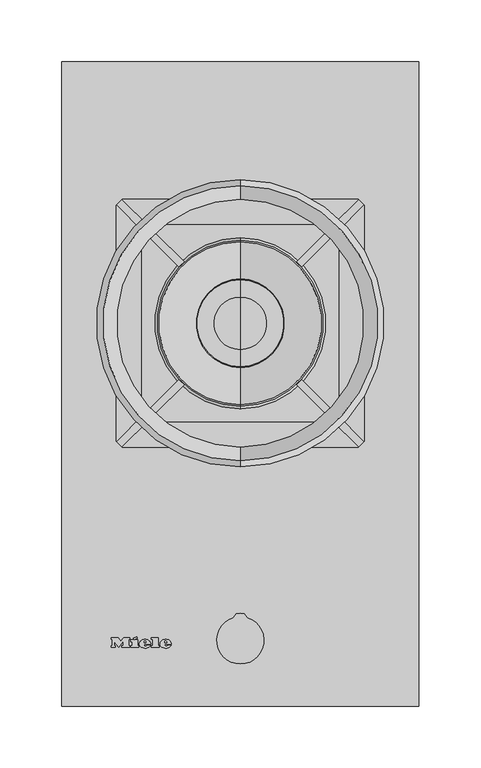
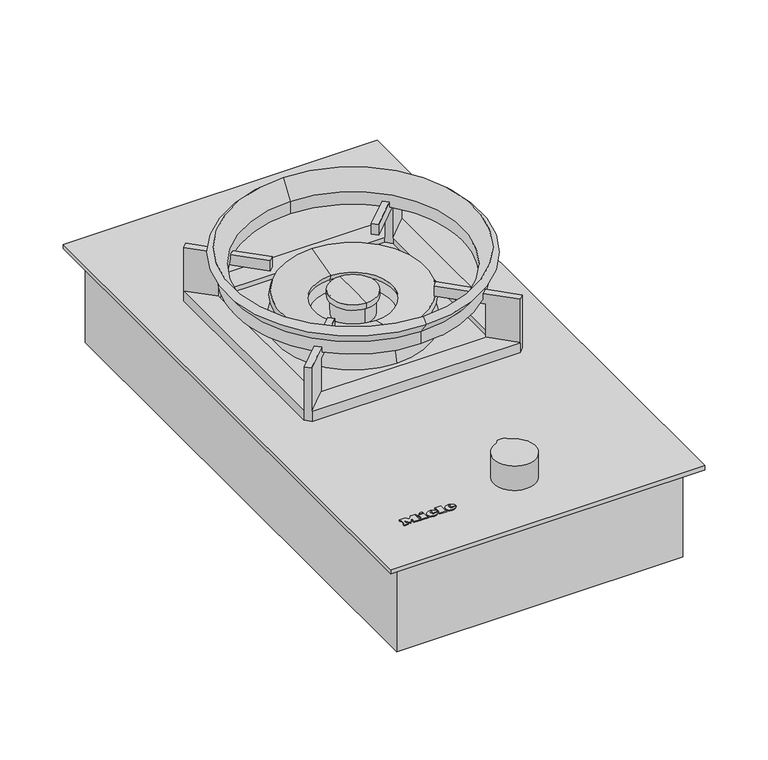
"""IFC4 building model written with IfcOpenShell, lengths in millimetres: proxy geometry, 12106150_HK_CS7151FL : 27715150_HK_12106150_CS7151FL."""

from ifc_helpers import new_model, si_unit, point, frame, frame_2d, origin, origin_with_axes, place, context, project, spatial, polyline, circle_curve, ellipse_curve, trimmed, segment, composite_curve, outline, extrude, source, transform, mapped, element, save
from ifc_brep_helpers import plane_surface, cylinder_surface, revolved_surface, extruded_surface, advanced_brep


def specialty_equipment_dbccff51(model_context):
    return source(origin(), model_context, "Body", "SolidModel", [
        advanced_brep(
        [(-60.94, 49.1959995, 4.9919765), (-60.94, 50.0039992, 4.9925904), (-55.588, 50.0039992, 4.9925904), (-64.9, 50.0039992, 4.9925904), (-62.7, 47.3, 4.990536), (-55.724, 49.1959995, 4.9919765), (-58.14, 49.1959995, 4.9919765), (-60.044, 48.2999997, 4.9912958), (-60.94, 51.0279989, 4.9933684), (-60.94, 51.8999987, 4.9940309), (-59.572, 51.8999987, 4.9940309), (-59.572, 51.0279989, 4.9933684), (-60.94, 49.1967592, 3.9919768), (-60.044, 48.3007595, 3.9912961), (-58.14, 49.1967592, 3.9919768), (-55.724, 49.1967592, 3.9919768), (-62.7, 47.3007598, 3.9905363), (-64.9, 50.004759, 3.9925907), (-55.588, 50.004759, 3.9925907), (-60.94, 50.004759, 3.9925907), (-60.94, 51.0287587, 3.9933687), (-59.572, 51.0287587, 3.9933687), (-59.572, 51.9007584, 3.9940312), (-60.94, 51.9007584, 3.9940312)],
        [
            (0, 1),
            (1, 2),
            (2, 3, ellipse_curve(frame((-60.244, 50.0039992, 4.9925904), z_axis=(0.0, -0.0007597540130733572, 0.9999997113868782), x_axis=(-1.0, 0.0, 0.0)), 4.656, 3.848)),
            (3, 4, circle_curve(frame((-61.8039564, 50.2759991, 4.9927971), z_axis=(0.0, -0.0007597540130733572, 0.9999997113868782), x_axis=(0.0, -0.9999997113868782, -0.0007597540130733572)), 3.1079688)),
            (4, 5, circle_curve(frame((-60.3372064, 52.3879985, 4.9944017), z_axis=(0.0, -0.0007597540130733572, 0.9999997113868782), x_axis=(0.0, -0.9999997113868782, -0.0007597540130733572)), 5.6098607)),
            (5, 6),
            (6, 7, circle_curve(frame((-59.6529412, 49.9399992, 4.9925418), z_axis=(0.0, 0.0007597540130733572, -0.9999997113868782), x_axis=(0.0, -0.9999997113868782, -0.0007597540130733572)), 1.6859795)),
            (7, 0, circle_curve(frame((-60.044, 49.1959995, 4.9919765), z_axis=(0.0, 0.0007597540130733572, -0.9999997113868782), x_axis=(0.0, -0.9999997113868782, -0.0007597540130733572)), 0.896)),
            (8, 9),
            (9, 10, circle_curve(frame((-60.256, 51.8999987, 4.9940309), z_axis=(0.0, 0.0007597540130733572, -0.9999997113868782), x_axis=(0.0, -0.9999997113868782, -0.0007597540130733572)), 0.684)),
            (10, 11),
            (11, 8),
            (12, 13, circle_curve(frame((-60.044, 49.1967592, 3.9919768), z_axis=(0.0, -0.0007597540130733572, 0.9999997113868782), x_axis=(0.0, -0.9999997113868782, -0.0007597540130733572)), 0.896)),
            (13, 14, circle_curve(frame((-59.6529412, 49.940759, 3.9925421), z_axis=(0.0, -0.0007597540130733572, 0.9999997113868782), x_axis=(0.0, -0.9999997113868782, -0.0007597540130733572)), 1.6859795)),
            (14, 15),
            (15, 16, circle_curve(frame((-60.3372064, 52.3887583, 3.994402), z_axis=(0.0, 0.0007597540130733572, -0.9999997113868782), x_axis=(0.0, -0.9999997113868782, -0.0007597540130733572)), 5.6098607)),
            (16, 17, circle_curve(frame((-61.8039564, 50.2767589, 3.9927974), z_axis=(0.0, 0.0007597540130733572, -0.9999997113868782), x_axis=(0.0, -0.9999997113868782, -0.0007597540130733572)), 3.1079688)),
            (17, 18, ellipse_curve(frame((-60.244, 50.004759, 3.9925907), z_axis=(0.0, 0.0007597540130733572, -0.9999997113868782), x_axis=(-1.0, 0.0, 0.0)), 4.656, 3.848)),
            (18, 19),
            (19, 12),
            (20, 21),
            (21, 22),
            (22, 23, circle_curve(frame((-60.256, 51.9007584, 3.9940312), z_axis=(0.0, -0.0007597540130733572, 0.9999997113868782), x_axis=(0.0, -0.9999997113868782, -0.0007597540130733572)), 0.684)),
            (23, 20),
            (0, 12),
            (19, 1),
            (18, 2),
            (5, 15),
            (14, 6),
            (17, 3),
            (13, 7),
            (16, 4),
            (8, 20),
            (23, 9),
            (22, 10),
            (21, 11),
        ],
        [
            plane_surface(frame((-60.94, 50.0039992, 4.9925904), z_axis=(0.0, -0.0007597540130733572, 0.9999997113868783), x_axis=(0.0, 0.9999997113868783, 0.0007597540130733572))),
            plane_surface(frame((-60.94, 50.004759, 3.9925907), z_axis=(0.0, 0.0007597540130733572, -0.9999997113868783), x_axis=(0.0, -0.9999997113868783, -0.0007597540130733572))),
            plane_surface(frame((-60.94, 49.1959995, 4.9919765), z_axis=(1.0, 0.0, 0.0), x_axis=(0.0, 0.0007597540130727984, -0.9999997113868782))),
            plane_surface(frame((-60.94, 50.0039992, 4.9925904), z_axis=(0.0, -0.9999997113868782, -0.0007597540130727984), x_axis=(0.0, 0.0007597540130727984, -0.9999997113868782))),
            plane_surface(frame((-55.724, 49.1959995, 4.9919765), z_axis=(0.0, 0.9999997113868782, 0.0007597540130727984), x_axis=(0.0, 0.0007597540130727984, -0.9999997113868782))),
            extruded_surface(trimmed(ellipse_curve(frame((-60.244, 50.0055187, 2.992591), z_axis=(0.0, -0.0007597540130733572, 0.9999997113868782), x_axis=(-1.0, 0.0, 0.0)), 4.656, 3.848), [point((-55.588, 50.0055187, 2.992591))], [point((-64.9, 50.0055187, 2.992591))], True, "CARTESIAN"), (0.0, -0.0007597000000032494, 0.9999997), 0.9999999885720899),
            revolved_surface(polyline([(-59.6529412, 48.25477998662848, 3.9912611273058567), (-59.6529412, 48.25402023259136, 4.991260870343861)]), (-59.6529412, 49.940759, 3.9925421), (0.0, 0.0007597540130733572, -0.9999997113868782)),
            revolved_surface(polyline([(-60.044, 48.30075945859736, 3.9912960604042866), (-60.044, 48.29999970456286, 4.991295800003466)]), (-60.044, 49.1967592, 3.9919768), (0.0, 0.0007597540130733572, -0.9999997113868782)),
            cylinder_surface(frame((-61.8039564, 50.2767589, 3.9927974), z_axis=(0.0, -0.0007597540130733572, 0.9999997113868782), x_axis=(0.0, -0.9999997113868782, -0.0007597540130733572)), 3.1079688),
            cylinder_surface(frame((-60.3372064, 52.3887583, 3.994402), z_axis=(0.0, -0.0007597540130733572, 0.9999997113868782), x_axis=(0.0, -0.9999997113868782, -0.0007597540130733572)), 5.6098607),
            plane_surface(frame((-60.94, 51.0279989, 4.9933684), z_axis=(1.0, 0.0, 0.0), x_axis=(0.0, 0.0007597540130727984, -0.9999997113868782))),
            revolved_surface(polyline([(-60.256, 51.21675859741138, 3.9935115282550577), (-60.256, 51.215998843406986, 4.993511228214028)]), (-60.256, 51.9007584, 3.9940312), (0.0, 0.0007597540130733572, -0.9999997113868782)),
            plane_surface(frame((-59.572, 51.8999987, 4.9940309), z_axis=(-1.0, 0.0, 0.0), x_axis=(0.0, 0.0007597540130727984, -0.9999997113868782))),
            plane_surface(frame((-59.572, 51.0279989, 4.9933684), z_axis=(0.0, 0.9999997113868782, 0.0007597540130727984), x_axis=(0.0, 0.0007597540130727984, -0.9999997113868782))),
        ],
        [
            (0, [[1, 2, 3, 4, 5, 6, 7, 8], [9, 10, 11, 12]]),
            (1, [[13, 14, 15, 16, 17, 18, 19, 20], [21, 22, 23, 24]]),
            (2, [[-1, 25, -20, 26]]),
            (3, [[-2, -26, -19, 27]]),
            (4, [[-6, 28, -15, 29]]),
            (5, [[-3, -27, -18, 30]]),
            (6, [[-7, -29, -14, 31]]),
            (7, [[-8, -31, -13, -25]]),
            (8, [[-4, -30, -17, 32]]),
            (9, [[-5, -32, -16, -28]]),
            (10, [[-9, 33, -24, 34]]),
            (11, [[-10, -34, -23, 35]]),
            (12, [[-11, -35, -22, 36]]),
            (13, [[-12, -36, -21, -33]]),
        ],
    ),
        advanced_brep(
        [(-77.636, 49.1959995, 4.9919765), (-77.636, 50.0039992, 4.9925904), (-72.284, 50.0039992, 4.9925904), (-81.596, 50.0039992, 4.9925904), (-79.396, 47.3, 4.990536), (-72.42, 49.1959995, 4.9919765), (-74.836, 49.1959995, 4.9919765), (-76.74, 48.2999997, 4.9912958), (-77.636, 51.0279989, 4.9933684), (-77.636, 51.8999987, 4.9940309), (-76.268, 51.8999987, 4.9940309), (-76.268, 51.0279989, 4.9933684), (-77.636, 49.1967592, 3.9919768), (-76.74, 48.3007595, 3.9912961), (-74.836, 49.1967592, 3.9919768), (-72.42, 49.1967592, 3.9919768), (-79.396, 47.3007598, 3.9905363), (-81.596, 50.004759, 3.9925907), (-72.284, 50.004759, 3.9925907), (-77.636, 50.004759, 3.9925907), (-77.636, 51.0287587, 3.9933687), (-76.268, 51.0287587, 3.9933687), (-76.268, 51.9007584, 3.9940312), (-77.636, 51.9007584, 3.9940312)],
        [
            (0, 1),
            (1, 2),
            (2, 3, ellipse_curve(frame((-76.94, 50.0039992, 4.9925904), z_axis=(0.0, -0.0007597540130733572, 0.9999997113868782), x_axis=(-1.0, 0.0, 0.0)), 4.656, 3.848)),
            (3, 4, circle_curve(frame((-78.4999564, 50.2759991, 4.9927971), z_axis=(0.0, -0.0007597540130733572, 0.9999997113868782), x_axis=(0.0, -0.9999997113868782, -0.0007597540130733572)), 3.1079688)),
            (4, 5, circle_curve(frame((-77.0332064, 52.3879985, 4.9944017), z_axis=(0.0, -0.0007597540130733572, 0.9999997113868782), x_axis=(0.0, -0.9999997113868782, -0.0007597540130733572)), 5.6098607)),
            (5, 6),
            (6, 7, circle_curve(frame((-76.3489412, 49.9399992, 4.9925418), z_axis=(0.0, 0.0007597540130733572, -0.9999997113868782), x_axis=(0.0, -0.9999997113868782, -0.0007597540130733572)), 1.6859795)),
            (7, 0, circle_curve(frame((-76.74, 49.1959995, 4.9919765), z_axis=(0.0, 0.0007597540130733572, -0.9999997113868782), x_axis=(0.0, -0.9999997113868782, -0.0007597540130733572)), 0.896)),
            (8, 9),
            (9, 10, circle_curve(frame((-76.952, 51.8999987, 4.9940309), z_axis=(0.0, 0.0007597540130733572, -0.9999997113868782), x_axis=(0.0, -0.9999997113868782, -0.0007597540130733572)), 0.684)),
            (10, 11),
            (11, 8),
            (12, 13, circle_curve(frame((-76.74, 49.1967592, 3.9919768), z_axis=(0.0, -0.0007597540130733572, 0.9999997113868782), x_axis=(0.0, -0.9999997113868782, -0.0007597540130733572)), 0.896)),
            (13, 14, circle_curve(frame((-76.3489412, 49.940759, 3.9925421), z_axis=(0.0, -0.0007597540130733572, 0.9999997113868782), x_axis=(0.0, -0.9999997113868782, -0.0007597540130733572)), 1.6859795)),
            (14, 15),
            (15, 16, circle_curve(frame((-77.0332064, 52.3887583, 3.994402), z_axis=(0.0, 0.0007597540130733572, -0.9999997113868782), x_axis=(0.0, -0.9999997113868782, -0.0007597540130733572)), 5.6098607)),
            (16, 17, circle_curve(frame((-78.4999564, 50.2767589, 3.9927974), z_axis=(0.0, 0.0007597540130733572, -0.9999997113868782), x_axis=(0.0, -0.9999997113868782, -0.0007597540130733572)), 3.1079688)),
            (17, 18, ellipse_curve(frame((-76.94, 50.004759, 3.9925907), z_axis=(0.0, 0.0007597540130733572, -0.9999997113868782), x_axis=(-1.0, 0.0, 0.0)), 4.656, 3.848)),
            (18, 19),
            (19, 12),
            (20, 21),
            (21, 22),
            (22, 23, circle_curve(frame((-76.952, 51.9007584, 3.9940312), z_axis=(0.0, -0.0007597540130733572, 0.9999997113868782), x_axis=(0.0, -0.9999997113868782, -0.0007597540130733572)), 0.684)),
            (23, 20),
            (0, 12),
            (19, 1),
            (18, 2),
            (5, 15),
            (14, 6),
            (17, 3),
            (13, 7),
            (16, 4),
            (8, 20),
            (23, 9),
            (22, 10),
            (21, 11),
        ],
        [
            plane_surface(frame((-77.636, 50.0039992, 4.9925904), z_axis=(0.0, -0.0007597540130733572, 0.9999997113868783), x_axis=(0.0, 0.9999997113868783, 0.0007597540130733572))),
            plane_surface(frame((-77.636, 50.004759, 3.9925907), z_axis=(0.0, 0.0007597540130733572, -0.9999997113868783), x_axis=(0.0, -0.9999997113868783, -0.0007597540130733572))),
            plane_surface(frame((-77.636, 49.1959995, 4.9919765), z_axis=(1.0, 0.0, 0.0), x_axis=(0.0, 0.0007597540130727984, -0.9999997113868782))),
            plane_surface(frame((-77.636, 50.0039992, 4.9925904), z_axis=(0.0, -0.9999997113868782, -0.0007597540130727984), x_axis=(0.0, 0.0007597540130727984, -0.9999997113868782))),
            plane_surface(frame((-72.42, 49.1959995, 4.9919765), z_axis=(0.0, 0.9999997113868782, 0.0007597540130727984), x_axis=(0.0, 0.0007597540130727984, -0.9999997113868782))),
            extruded_surface(trimmed(ellipse_curve(frame((-76.94, 50.0055187, 2.992591), z_axis=(0.0, -0.0007597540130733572, 0.9999997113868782), x_axis=(-1.0, 0.0, 0.0)), 4.656, 3.848), [point((-72.284, 50.0055187, 2.992591))], [point((-81.596, 50.0055187, 2.992591))], True, "CARTESIAN"), (0.0, -0.0007597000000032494, 0.9999997), 0.9999999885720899),
            revolved_surface(polyline([(-76.3489412, 48.25477998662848, 3.9912611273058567), (-76.3489412, 48.25402023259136, 4.991260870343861)]), (-76.3489412, 49.940759, 3.9925421), (0.0, 0.0007597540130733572, -0.9999997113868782)),
            revolved_surface(polyline([(-76.74, 48.30075945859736, 3.9912960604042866), (-76.74, 48.29999970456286, 4.991295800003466)]), (-76.74, 49.1967592, 3.9919768), (0.0, 0.0007597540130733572, -0.9999997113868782)),
            cylinder_surface(frame((-78.4999564, 50.2767589, 3.9927974), z_axis=(0.0, -0.0007597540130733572, 0.9999997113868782), x_axis=(0.0, -0.9999997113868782, -0.0007597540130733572)), 3.1079688),
            cylinder_surface(frame((-77.0332064, 52.3887583, 3.994402), z_axis=(0.0, -0.0007597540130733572, 0.9999997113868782), x_axis=(0.0, -0.9999997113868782, -0.0007597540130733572)), 5.6098607),
            plane_surface(frame((-77.636, 51.0279989, 4.9933684), z_axis=(1.0, 0.0, 0.0), x_axis=(0.0, 0.0007597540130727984, -0.9999997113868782))),
            revolved_surface(polyline([(-76.952, 51.21675859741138, 3.9935115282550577), (-76.952, 51.215998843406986, 4.993511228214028)]), (-76.952, 51.9007584, 3.9940312), (0.0, 0.0007597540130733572, -0.9999997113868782)),
            plane_surface(frame((-76.268, 51.8999987, 4.9940309), z_axis=(-1.0, 0.0, 0.0), x_axis=(0.0, 0.0007597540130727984, -0.9999997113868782))),
            plane_surface(frame((-76.268, 51.0279989, 4.9933684), z_axis=(0.0, 0.9999997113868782, 0.0007597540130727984), x_axis=(0.0, 0.0007597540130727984, -0.9999997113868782))),
        ],
        [
            (0, [[1, 2, 3, 4, 5, 6, 7, 8], [9, 10, 11, 12]]),
            (1, [[13, 14, 15, 16, 17, 18, 19, 20], [21, 22, 23, 24]]),
            (2, [[-1, 25, -20, 26]]),
            (3, [[-2, -26, -19, 27]]),
            (4, [[-6, 28, -15, 29]]),
            (5, [[-3, -27, -18, 30]]),
            (6, [[-7, -29, -14, 31]]),
            (7, [[-8, -31, -13, -25]]),
            (8, [[-4, -30, -17, 32]]),
            (9, [[-5, -32, -16, -28]]),
            (10, [[-9, 33, -24, 34]]),
            (11, [[-10, -34, -23, 35]]),
            (12, [[-11, -35, -22, 36]]),
            (13, [[-12, -36, -21, -33]]),
        ],
    ),
        extrude(outline(polyline([(0.0, 0.0), (-0.0109086, -2.9993294), (-1.4390415, -2.9920868), (-1.4315306, 0.0), (0.0, 0.0)])), frame((-86.38, 54.8287576, 3.9962558), z_axis=(0.0, -0.0007597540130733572, 0.9999997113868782), x_axis=(-0.42472021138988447, 0.9053243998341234, 0.0006878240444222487)), (0.0, 0.0, 1.0), 1.0),
        extrude(outline(polyline([(-0.4933908, 2.4141097), (-2.7800844, -2.4601583), (-7.0459742, -0.4588767), (-7.4401145, -1.2990179), (-8.6568709, -0.728194), (-5.9760369, 4.9862153), (-4.7592806, 4.4153913), (-5.1636142, 3.5535222), (-2.1941494, 2.16044), (-1.7898157, 3.022309), (-0.4933908, 2.4141097)])), frame((-86.38, 54.8287576, 3.9962558), z_axis=(0.0, -0.0007597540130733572, 0.9999997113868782), x_axis=(-0.42472021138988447, 0.9053243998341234, 0.0006878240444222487)), (0.0, 0.0, 1.0), 1.0),
        extrude(outline(polyline([(0.0, 0.0), (0.0, -1.304), (-5.504, -1.304), (-5.504, 5.3519999), (-6.488, 5.3519999), (-6.488, 6.6959999), (0.0, 6.6959999), (0.0, 5.3519999), (-0.96, 5.3519999), (-0.96, 0.0), (0.0, 0.0)])), frame((-71.836, 53.9967578, 3.9956236), z_axis=(0.0, -0.0007597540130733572, 0.9999997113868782), x_axis=(-1.0, 0.0, 0.0)), (0.0, 0.0, 1.0), 1.0),
        extrude(outline(polyline([(0.0, 0.0), (0.0, -1.304), (-5.576, -1.304), (-7.92, 1.696), (-10.256, -1.304), (-15.128, -1.304), (-15.128, 0.0), (-14.112, 0.0), (-14.112, 5.3519999), (-15.128, 5.3519999), (-15.128, 6.6959999), (-8.744, 6.6959999), (-8.744, 5.3519999), (-9.728, 5.3519999), (-9.728, 1.8807776), (-6.136, 6.6959999), (-2.56, 1.9488753), (-2.56, 5.3519999), (-3.52, 5.3519999), (-3.52, 6.6959999), (0.0, 6.6959999), (0.0, 5.3519999), (-0.968, 5.3519999), (-0.968, 0.0), (0.0, 0.0)])), frame((-104.3, 53.9967578, 3.9956236), z_axis=(0.0, -0.0007597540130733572, 0.9999997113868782), x_axis=(-1.0, 0.0, 0.0)), (0.0, 0.0, 1.0), 1.0),
        extrude(outline(composite_curve([segment(trimmed(circle_curve(frame_2d((0.0, 53.0)), 7.5), [point((-7.5, 53.0))], [point((7.5, 53.0))], False, "CARTESIAN"), True, "CONTINUOUS"), segment(trimmed(circle_curve(frame_2d((0.0, 53.0)), 7.5), [point((7.5, 53.0))], [point((-7.5, 53.0))], False, "CARTESIAN"), True, "CONTINUOUS")], self_intersect=False)), frame((0.0, 0.0, 4.0), z_axis=(0.0, 0.0, 1.0), x_axis=(1.0, 0.0, 0.0)), (0.0, 0.0, 1.0), 7.5),
        extrude(outline(composite_curve([segment(polyline([(-5.6016767, 71.1554735), (-3.3, 74.5)]), True, "CONTINUOUS"), segment(trimmed(circle_curve(frame_2d((0.0, 53.0)), 21.7517815), [point((-3.3, 74.5))], [point((3.3, 74.5))], False, "CARTESIAN"), True, "CONTINUOUS"), segment(polyline([(3.3, 74.5), (5.6016767, 71.1554735)]), True, "CONTINUOUS"), segment(trimmed(circle_curve(frame_2d((0.0, 53.0)), 19.0), [point((5.6016767, 71.1554735))], [point((-5.6016767, 71.1554735))], False, "CARTESIAN"), True, "CONTINUOUS")], self_intersect=False)), frame((0.0, 0.0, 11.5), z_axis=(0.0, 0.0, 1.0), x_axis=(1.0, 0.0, 0.0)), (0.0, 0.0, 1.0), 23.5),
        extrude(outline(polyline([(131.0, 507.0), (131.0, 13.0), (-131.0, 13.0), (-131.0, 507.0), (131.0, 507.0)])), frame((0.0, 0.0, -88.0), z_axis=(0.0, 0.0, 1.0), x_axis=(1.0, 0.0, 0.0)), (0.0, 0.0, 1.0), 85.5),
        extrude(outline(polyline([(133.0, 509.0), (133.0, 11.0), (-133.0, 11.0), (-133.0, 509.0), (133.0, 509.0)])), frame((0.0, 0.0, -2.5), z_axis=(0.0, 0.0, 1.0), x_axis=(1.0, 0.0, 0.0)), (0.0, 0.0, 1.0), 2.5),
        extrude(outline(polyline([(90.0, 399.0), (90.0, 219.0), (-90.0, 219.0), (-90.0, 399.0), (90.0, 399.0)])), frame((0.0, 0.0, 4.0), z_axis=(0.0, 0.0, 1.0), x_axis=(1.0, 0.0, 0.0)), (0.0, 0.0, 1.0), 3.8),
        advanced_brep(
        [(-95.5786797, 408.8213203, 55.5), (-99.8213203, 404.5786797, 55.5), (-78.2471701, 383.0045294, 55.5), (-74.0045294, 387.2471701, 55.5), (-99.8213203, 213.4213203, 55.5), (-95.5786797, 209.1786797, 55.5), (-74.0045294, 230.7528299, 55.5), (-78.2471701, 234.9954706, 55.5), (95.5786797, 209.1786797, 55.5), (99.8213203, 213.4213203, 55.5), (78.2471701, 234.9954706, 55.5), (74.0045294, 230.7528299, 55.5), (99.8213203, 404.5786797, 55.5), (95.5786797, 408.8213203, 55.5), (74.0045294, 387.2471701, 55.5), (78.2471701, 383.0045294, 55.5), (-45.4457528, 259.3116065, 55.5), (-49.6883935, 263.5542472, 55.5), (-72.8001715, 240.4424692, 55.5), (-68.5575308, 236.1998285, 55.5), (-49.6883935, 354.4457528, 55.5), (-45.4457528, 358.6883935, 55.5), (-68.5575308, 381.8001715, 55.5), (-72.8001715, 377.5575308, 55.5), (45.4457528, 358.6883935, 55.5), (49.6883935, 354.4457528, 55.5), (72.8001715, 377.5575308, 55.5), (68.5575308, 381.8001715, 55.5), (49.6883935, 263.5542472, 55.5), (45.4457528, 259.3116065, 55.5), (68.5575308, 236.1998285, 55.5), (72.8001715, 240.4424692, 55.5), (95.2, 409.2, 4.0), (100.2, 404.2, 4.0), (100.2, 213.8, 4.0), (95.2, 208.8, 4.0), (-95.2, 208.8, 4.0), (-100.2, 213.8, 4.0), (-100.2, 404.2, 4.0), (-95.2, 409.2, 4.0), (91.0, 218.0, 4.0), (91.0, 400.0, 4.0), (-91.0, 400.0, 4.0), (-91.0, 218.0, 4.0), (-95.2, 409.2, 13.5), (95.2, 409.2, 13.5), (-100.2, 404.2, 13.5), (-99.8213203, 404.5786797, 13.5), (-95.5786797, 408.8213203, 13.5), (-100.2, 213.8, 13.5), (-95.2, 208.8, 13.5), (-95.5786797, 209.1786797, 13.5), (-99.8213203, 213.4213203, 13.5), (95.2, 208.8, 13.5), (100.2, 213.8, 13.5), (99.8213203, 213.4213203, 13.5), (95.5786797, 209.1786797, 13.5), (100.2, 404.2, 13.5), (95.5786797, 408.8213203, 13.5), (99.8213203, 404.5786797, 13.5), (-45.4457528, 259.3116065, 45.5), (-49.6883935, 263.5542472, 45.5), (-49.6883935, 354.4457528, 45.5), (-45.4457528, 358.6883935, 45.5), (45.4457528, 358.6883935, 45.5), (49.6883935, 354.4457528, 45.5), (49.6883935, 263.5542472, 45.5), (45.4457528, 259.3116065, 45.5), (91.0, 400.0, 9.0), (91.0, 218.0, 9.0), (-91.0, 218.0, 9.0), (-91.0, 400.0, 9.0), (80.0, 384.0, 9.0), (75.0, 389.0, 9.0), (-75.0, 389.0, 9.0), (-80.0, 384.0, 9.0), (-80.0, 234.0, 9.0), (-75.0, 229.0, 9.0), (75.0, 229.0, 9.0), (80.0, 234.0, 9.0), (-75.3786797, 229.3786797, 45.5), (-79.6213203, 233.6213203, 45.5), (-79.6213203, 384.3786797, 45.5), (-75.3786797, 388.6213203, 45.5), (75.3786797, 388.6213203, 45.5), (79.6213203, 384.3786797, 45.5), (79.6213203, 233.6213203, 45.5), (75.3786797, 229.3786797, 45.5), (80.0, 384.0, 13.5), (79.6213203, 384.3786797, 13.5), (75.3786797, 388.6213203, 13.5), (75.0, 389.0, 13.5), (80.0, 234.0, 13.5), (75.0, 229.0, 13.5), (75.3786797, 229.3786797, 13.5), (79.6213203, 233.6213203, 13.5), (-75.0, 229.0, 13.5), (-80.0, 234.0, 13.5), (-79.6213203, 233.6213203, 13.5), (-75.3786797, 229.3786797, 13.5), (-80.0, 384.0, 13.5), (-75.0, 389.0, 13.5), (-75.3786797, 388.6213203, 13.5), (-79.6213203, 384.3786797, 13.5), (-72.8001715, 377.5575308, 50.5), (-78.2471701, 383.0045294, 50.5), (-78.2471701, 234.9954706, 50.5), (-72.8001715, 240.4424692, 50.5), (-68.5575308, 236.1998285, 50.5), (-74.0045294, 230.7528299, 50.5), (74.0045294, 230.7528299, 50.5), (68.5575308, 236.1998285, 50.5), (72.8001715, 240.4424692, 50.5), (78.2471701, 234.9954706, 50.5), (78.2471701, 383.0045294, 50.5), (72.8001715, 377.5575308, 50.5), (68.5575308, 381.8001715, 50.5), (74.0045294, 387.2471701, 50.5), (-74.0045294, 387.2471701, 50.5), (-68.5575308, 381.8001715, 50.5), (0.0, 409.0, 62.5), (0.0, 209.0, 62.5), (0.0, 209.0, 50.5), (0.0, 409.0, 50.5), (0.0, 420.0, 79.0), (0.0, 198.0, 79.0), (0.0, 425.0, 74.0), (0.0, 193.0, 74.0), (0.0, 416.7, 62.5), (0.0, 201.3, 62.5), (0.0, 416.7, 50.5), (0.0, 201.3, 50.5)],
        [
            (0, 1),
            (1, 2),
            (2, 3, circle_curve(frame((0.0, 309.0, 55.5), z_axis=(0.0, 0.0, -1.0), x_axis=(0.0, -1.0, 0.0)), 107.7)),
            (3, 0),
            (4, 5),
            (5, 6),
            (6, 7, circle_curve(frame((0.0, 309.0, 55.5), z_axis=(0.0, 0.0, -1.0), x_axis=(0.0, -1.0, 0.0)), 107.7)),
            (7, 4),
            (8, 9),
            (9, 10),
            (10, 11, circle_curve(frame((0.0, 309.0, 55.5), z_axis=(0.0, 0.0, -1.0), x_axis=(0.0, -1.0, 0.0)), 107.7)),
            (11, 8),
            (12, 13),
            (13, 14),
            (14, 15, circle_curve(frame((0.0, 309.0, 55.5), z_axis=(0.0, 0.0, -1.0), x_axis=(0.0, -1.0, 0.0)), 107.7)),
            (15, 12),
            (16, 17),
            (17, 18),
            (18, 19, circle_curve(frame((0.0, 309.0, 55.5), z_axis=(0.0, 0.0, 1.0), x_axis=(0.0, -1.0, 0.0)), 100.0)),
            (19, 16),
            (20, 21),
            (21, 22),
            (22, 23, circle_curve(frame((0.0, 309.0, 55.5), z_axis=(0.0, 0.0, 1.0), x_axis=(0.0, -1.0, 0.0)), 100.0)),
            (23, 20),
            (24, 25),
            (25, 26),
            (26, 27, circle_curve(frame((0.0, 309.0, 55.5), z_axis=(0.0, 0.0, 1.0), x_axis=(0.0, -1.0, 0.0)), 100.0)),
            (27, 24),
            (28, 29),
            (29, 30),
            (30, 31, circle_curve(frame((0.0, 309.0, 55.5), z_axis=(0.0, 0.0, 1.0), x_axis=(0.0, -1.0, 0.0)), 100.0)),
            (31, 28),
            (32, 33),
            (33, 34),
            (34, 35),
            (35, 36),
            (36, 37),
            (37, 38),
            (38, 39),
            (39, 32),
            (40, 41),
            (41, 42),
            (42, 43),
            (43, 40),
            (39, 44),
            (44, 45),
            (45, 32),
            (38, 46),
            (46, 47),
            (47, 1),
            (0, 48),
            (48, 44),
            (37, 49),
            (49, 46),
            (36, 50),
            (50, 51),
            (51, 5),
            (4, 52),
            (52, 49),
            (35, 53),
            (53, 50),
            (34, 54),
            (54, 55),
            (55, 9),
            (8, 56),
            (56, 53),
            (33, 57),
            (57, 54),
            (45, 58),
            (58, 13),
            (12, 59),
            (59, 57),
            (16, 60),
            (60, 61),
            (61, 17),
            (20, 62),
            (62, 63),
            (63, 21),
            (24, 64),
            (64, 65),
            (65, 25),
            (28, 66),
            (66, 67),
            (67, 29),
            (68, 69),
            (69, 70),
            (70, 71),
            (71, 68),
            (72, 73),
            (73, 74),
            (74, 75),
            (75, 76),
            (76, 77),
            (77, 78),
            (78, 79),
            (79, 72),
            (68, 41),
            (40, 69),
            (43, 70),
            (42, 71),
            (60, 80),
            (80, 81),
            (81, 61),
            (62, 82),
            (82, 83),
            (83, 63),
            (64, 84),
            (84, 85),
            (85, 65),
            (66, 86),
            (86, 87),
            (87, 67),
            (72, 88),
            (88, 89),
            (89, 85),
            (84, 90),
            (90, 91),
            (91, 73),
            (79, 92),
            (92, 88),
            (78, 93),
            (93, 94),
            (94, 87),
            (86, 95),
            (95, 92),
            (77, 96),
            (96, 93),
            (76, 97),
            (97, 98),
            (98, 81),
            (80, 99),
            (99, 96),
            (75, 100),
            (100, 97),
            (74, 101),
            (101, 102),
            (102, 83),
            (82, 103),
            (103, 100),
            (91, 101),
            (48, 102),
            (90, 58),
            (59, 89),
            (95, 55),
            (56, 94),
            (99, 51),
            (52, 98),
            (103, 47),
            (23, 104),
            (104, 105),
            (105, 2),
            (7, 106),
            (106, 107),
            (107, 18),
            (19, 108),
            (108, 109),
            (109, 6),
            (11, 110),
            (110, 111),
            (111, 30),
            (31, 112),
            (112, 113),
            (113, 10),
            (15, 114),
            (114, 115),
            (115, 26),
            (27, 116),
            (116, 117),
            (117, 14),
            (3, 118),
            (118, 119),
            (119, 22),
            (120, 121, circle_curve(frame((0.0, 309.0, 62.5), z_axis=(0.0, 0.0, 1.0), x_axis=(0.0, -1.0, 0.0)), 100.0)),
            (121, 122),
            (122, 108, circle_curve(frame((0.0, 309.0, 50.5), z_axis=(0.0, 0.0, -1.0), x_axis=(0.0, -1.0, 0.0)), 100.0)),
            (107, 104, circle_curve(frame((0.0, 309.0, 50.5), z_axis=(0.0, 0.0, -1.0), x_axis=(0.0, -1.0, 0.0)), 100.0)),
            (119, 123, circle_curve(frame((0.0, 309.0, 50.5), z_axis=(0.0, 0.0, -1.0), x_axis=(0.0, -1.0, 0.0)), 100.0)),
            (123, 120),
            (121, 120, circle_curve(frame((0.0, 309.0, 62.5), z_axis=(0.0, 0.0, 1.0), x_axis=(0.0, -1.0, 0.0)), 100.0)),
            (123, 116, circle_curve(frame((0.0, 309.0, 50.5), z_axis=(0.0, 0.0, -1.0), x_axis=(0.0, -1.0, 0.0)), 100.0)),
            (115, 112, circle_curve(frame((0.0, 309.0, 50.5), z_axis=(0.0, 0.0, -1.0), x_axis=(0.0, -1.0, 0.0)), 100.0)),
            (111, 122, circle_curve(frame((0.0, 309.0, 50.5), z_axis=(0.0, 0.0, -1.0), x_axis=(0.0, -1.0, 0.0)), 100.0)),
            (120, 124),
            (124, 125, circle_curve(frame((0.0, 309.0, 79.0), z_axis=(0.0, 0.0, 1.0), x_axis=(0.0, -1.0, 0.0)), 111.0)),
            (125, 121),
            (125, 124, circle_curve(frame((0.0, 309.0, 79.0), z_axis=(0.0, 0.0, 1.0), x_axis=(0.0, -1.0, 0.0)), 111.0)),
            (124, 126),
            (126, 127, circle_curve(frame((0.0, 309.0, 74.0), z_axis=(0.0, 0.0, 1.0), x_axis=(0.0, -1.0, 0.0)), 116.0)),
            (127, 125),
            (127, 126, circle_curve(frame((0.0, 309.0, 74.0), z_axis=(0.0, 0.0, 1.0), x_axis=(0.0, -1.0, 0.0)), 116.0)),
            (126, 128),
            (128, 129, circle_curve(frame((0.0, 309.0, 62.5), z_axis=(0.0, 0.0, 1.0), x_axis=(0.0, -1.0, 0.0)), 107.7)),
            (129, 127),
            (129, 128, circle_curve(frame((0.0, 309.0, 62.5), z_axis=(0.0, 0.0, 1.0), x_axis=(0.0, -1.0, 0.0)), 107.7)),
            (128, 130),
            (130, 118, circle_curve(frame((0.0, 309.0, 50.5), z_axis=(0.0, 0.0, 1.0), x_axis=(0.0, -1.0, 0.0)), 107.7)),
            (105, 106, circle_curve(frame((0.0, 309.0, 50.5), z_axis=(0.0, 0.0, 1.0), x_axis=(0.0, -1.0, 0.0)), 107.7)),
            (109, 131, circle_curve(frame((0.0, 309.0, 50.5), z_axis=(0.0, 0.0, 1.0), x_axis=(0.0, -1.0, 0.0)), 107.7)),
            (131, 129),
            (131, 110, circle_curve(frame((0.0, 309.0, 50.5), z_axis=(0.0, 0.0, 1.0), x_axis=(0.0, -1.0, 0.0)), 107.7)),
            (113, 114, circle_curve(frame((0.0, 309.0, 50.5), z_axis=(0.0, 0.0, 1.0), x_axis=(0.0, -1.0, 0.0)), 107.7)),
            (117, 130, circle_curve(frame((0.0, 309.0, 50.5), z_axis=(0.0, 0.0, 1.0), x_axis=(0.0, -1.0, 0.0)), 107.7)),
            (122, 131),
            (130, 123),
        ],
        [
            plane_surface(frame((-95.2, 409.2, 55.5), z_axis=(0.0, 0.0, 1.0), x_axis=(-1.0, 0.0, 0.0))),
            plane_surface(frame((-95.2, 409.2, 4.0), z_axis=(0.0, 0.0, -1.0), x_axis=(1.0, 0.0, 0.0))),
            plane_surface(frame((95.2, 409.2, 55.5), z_axis=(0.0, 1.0, 0.0), x_axis=(0.0, 0.0, -1.0))),
            plane_surface(frame((-95.2, 409.2, 55.5), z_axis=(-0.7071067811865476, 0.7071067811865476, 0.0), x_axis=(0.0, 0.0, -1.0))),
            plane_surface(frame((-100.2, 404.2, 55.5), z_axis=(-1.0, 0.0, 0.0), x_axis=(0.0, 0.0, -1.0))),
            plane_surface(frame((-100.2, 213.8, 55.5), z_axis=(-0.7071067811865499, -0.7071067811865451, 0.0), x_axis=(0.0, 0.0, -1.0))),
            plane_surface(frame((-95.2, 208.8, 55.5), z_axis=(0.0, -1.0, 0.0), x_axis=(0.0, 0.0, -1.0))),
            plane_surface(frame((95.2, 208.8, 55.5), z_axis=(0.7071067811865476, -0.7071067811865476, 0.0), x_axis=(0.0, 0.0, -1.0))),
            plane_surface(frame((100.2, 213.8, 55.5), z_axis=(1.0, 0.0, 0.0), x_axis=(0.0, 0.0, -1.0))),
            plane_surface(frame((100.2, 404.2, 55.5), z_axis=(0.7071067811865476, 0.7071067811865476, 0.0), x_axis=(0.0, 0.0, -1.0))),
            plane_surface(frame((-27.8641463, 241.73, 55.5), z_axis=(0.7071067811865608, 0.7071067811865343, 0.0), x_axis=(0.0, 0.0, -1.0))),
            plane_surface(frame((-67.27, 336.8641463, 55.5), z_axis=(0.7071067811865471, -0.707106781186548, 0.0), x_axis=(0.0, 0.0, -1.0))),
            plane_surface(frame((27.8641463, 376.27, 55.5), z_axis=(-0.7071067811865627, -0.7071067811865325, 0.0), x_axis=(0.0, 0.0, -1.0))),
            plane_surface(frame((67.27, 281.1358537, 55.5), z_axis=(-0.7071067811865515, 0.7071067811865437, 0.0), x_axis=(0.0, 0.0, -1.0))),
            plane_surface(frame((91.0, 400.0, 9.0), z_axis=(0.0, 0.0, -1.0), x_axis=(0.0, 1.0, 0.0))),
            plane_surface(frame((91.0, 400.0, 4.0), z_axis=(-1.0, 0.0, 0.0), x_axis=(0.0, 0.0, 1.0))),
            plane_surface(frame((91.0, 218.0, 4.0), z_axis=(0.0, 1.0, 0.0), x_axis=(0.0, 0.0, 1.0))),
            plane_surface(frame((-91.0, 218.0, 4.0), z_axis=(1.0, 0.0, 0.0), x_axis=(0.0, 0.0, 1.0))),
            plane_surface(frame((-91.0, 400.0, 4.0), z_axis=(0.0, -1.0, 0.0), x_axis=(0.0, 0.0, 1.0))),
            plane_surface(frame((75.0, 389.0, 45.5), z_axis=(0.0, 0.0, -1.0), x_axis=(-0.7071067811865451, 0.7071067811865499, 0.0))),
            plane_surface(frame((75.0, 389.0, 4.0), z_axis=(-0.7071067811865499, -0.7071067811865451, 0.0), x_axis=(0.0, 0.0, 1.0))),
            plane_surface(frame((80.0, 384.0, 4.0), z_axis=(-1.0, 0.0, 0.0), x_axis=(0.0, 0.0, 1.0))),
            plane_surface(frame((80.0, 234.0, 4.0), z_axis=(-0.7071067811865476, 0.7071067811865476, 0.0), x_axis=(0.0, 0.0, 1.0))),
            plane_surface(frame((75.0, 229.0, 4.0), z_axis=(0.0, 1.0, 0.0), x_axis=(0.0, 0.0, 1.0))),
            plane_surface(frame((-75.0, 229.0, 4.0), z_axis=(0.7071067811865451, 0.7071067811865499, 0.0), x_axis=(0.0, 0.0, 1.0))),
            plane_surface(frame((-80.0, 234.0, 4.0), z_axis=(1.0, 0.0, 0.0), x_axis=(0.0, 0.0, 1.0))),
            plane_surface(frame((-80.0, 384.0, 4.0), z_axis=(0.7071067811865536, -0.7071067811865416, 0.0), x_axis=(0.0, 0.0, 1.0))),
            plane_surface(frame((-75.0, 389.0, 4.0), z_axis=(0.0, -1.0, 0.0), x_axis=(0.0, 0.0, 1.0))),
            plane_surface(frame((-110.2, 419.2, 13.5), z_axis=(0.0, 0.0, 1.0), x_axis=(-1.0, 0.0, 0.0))),
            plane_surface(frame((-110.2, 414.9573593, 13.5), z_axis=(-0.7071067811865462, -0.7071067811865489, 0.0), x_axis=(0.0, 0.0, 1.0))),
            plane_surface(frame((-4.2426407, 309.0, 13.5), z_axis=(-0.7071067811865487, 0.7071067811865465, 0.0), x_axis=(0.0, 0.0, 1.0))),
            plane_surface(frame((-105.9573593, 198.8, 13.5), z_axis=(0.7071067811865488, -0.7071067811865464, 0.0), x_axis=(0.0, 0.0, 1.0))),
            plane_surface(frame((0.0, 304.7573593, 13.5), z_axis=(-0.7071067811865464, -0.7071067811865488, 0.0), x_axis=(0.0, 0.0, 1.0))),
            plane_surface(frame((110.2, 203.0426407, 13.5), z_axis=(0.7071067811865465, 0.7071067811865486, 0.0), x_axis=(0.0, 0.0, 1.0))),
            plane_surface(frame((4.2426407, 309.0, 13.5), z_axis=(0.7071067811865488, -0.7071067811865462, 0.0), x_axis=(0.0, 0.0, 1.0))),
            plane_surface(frame((105.9573593, 419.2, 13.5), z_axis=(-0.7071067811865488, 0.7071067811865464, 0.0), x_axis=(0.0, 0.0, 1.0))),
            plane_surface(frame((0.0, 313.2426407, 13.5), z_axis=(0.7071067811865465, 0.7071067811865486, 0.0), x_axis=(0.0, 0.0, 1.0))),
            revolved_surface(polyline([(0.0, 209.0, 50.5), (0.0, 209.0, 62.5)]), (0.0, 309.0, 2438.4), (0.0, 0.0, -1.0)),
            revolved_surface(polyline([(0.0, 209.0, 62.5), (0.0, 198.0, 79.0)]), (0.0, 309.0, 2438.4), (0.0, 0.0, -1.0)),
            revolved_surface(polyline([(0.0, 198.0, 79.0), (0.0, 193.0, 74.0)]), (0.0, 309.0, 2438.4), (0.0, 0.0, -1.0)),
            revolved_surface(polyline([(0.0, 193.0, 74.0), (0.0, 201.3, 62.5)]), (0.0, 309.0, 2438.4), (0.0, 0.0, -1.0)),
            cylinder_surface(frame((0.0, 309.0, 2438.4), z_axis=(0.0, 0.0, -1.0), x_axis=(0.0, -1.0, 0.0)), 107.7),
            plane_surface(frame((0.0, 309.0, 50.5), z_axis=(0.0, 0.0, -1.0), x_axis=(0.0, -1.0, 0.0))),
        ],
        [
            (0, [[1, 2, 3, 4]]),
            (0, [[5, 6, 7, 8]]),
            (0, [[9, 10, 11, 12]]),
            (0, [[13, 14, 15, 16]]),
            (0, [[17, 18, 19, 20]]),
            (0, [[21, 22, 23, 24]]),
            (0, [[25, 26, 27, 28]]),
            (0, [[29, 30, 31, 32]]),
            (1, [[33, 34, 35, 36, 37, 38, 39, 40], [41, 42, 43, 44]]),
            (2, [[-40, 45, 46, 47]]),
            (3, [[-39, 48, 49, 50, -1, 51, 52, -45]]),
            (4, [[-38, 53, 54, -48]]),
            (5, [[-37, 55, 56, 57, -5, 58, 59, -53]]),
            (6, [[-36, 60, 61, -55]]),
            (7, [[-35, 62, 63, 64, -9, 65, 66, -60]]),
            (8, [[-34, 67, 68, -62]]),
            (9, [[-33, -47, 69, 70, -13, 71, 72, -67]]),
            (10, [[-17, 73, 74, 75]]),
            (11, [[-21, 76, 77, 78]]),
            (12, [[-25, 79, 80, 81]]),
            (13, [[-29, 82, 83, 84]]),
            (14, [[85, 86, 87, 88], [89, 90, 91, 92, 93, 94, 95, 96]]),
            (15, [[-85, 97, -41, 98]]),
            (16, [[-86, -98, -44, 99]]),
            (17, [[-87, -99, -43, 100]]),
            (18, [[-88, -100, -42, -97]]),
            (19, [[-74, 101, 102, 103]]),
            (19, [[-77, 104, 105, 106]]),
            (19, [[-80, 107, 108, 109]]),
            (19, [[-83, 110, 111, 112]]),
            (20, [[-89, 113, 114, 115, -108, 116, 117, 118]]),
            (21, [[-96, 119, 120, -113]]),
            (22, [[-95, 121, 122, 123, -111, 124, 125, -119]]),
            (23, [[-94, 126, 127, -121]]),
            (24, [[-93, 128, 129, 130, -102, 131, 132, -126]]),
            (25, [[-92, 133, 134, -128]]),
            (26, [[-91, 135, 136, 137, -105, 138, 139, -133]]),
            (27, [[-90, -118, 140, -135]]),
            (28, [[141, -136, -140, -117, 142, -69, -46, -52]]),
            (28, [[143, -114, -120, -125, 144, -63, -68, -72]]),
            (28, [[145, -122, -127, -132, 146, -56, -61, -66]]),
            (28, [[147, -129, -134, -139, 148, -49, -54, -59]]),
            (29, [[-148, -138, -104, -76, -24, 149, 150, 151, -2, -50]]),
            (30, [[-147, -58, -8, 152, 153, 154, -18, -75, -103, -130]]),
            (31, [[-146, -131, -101, -73, -20, 155, 156, 157, -6, -57]]),
            (32, [[-145, -65, -12, 158, 159, 160, -30, -84, -112, -123]]),
            (33, [[-144, -124, -110, -82, -32, 161, 162, 163, -10, -64]]),
            (34, [[-143, -71, -16, 164, 165, 166, -26, -81, -109, -115]]),
            (35, [[-142, -116, -107, -79, -28, 167, 168, 169, -14, -70]]),
            (36, [[-141, -51, -4, 170, 171, 172, -22, -78, -106, -137]]),
            (37, [[173, 174, 175, -155, -19, -154, 176, -149, -23, -172, 177, 178]]),
            (37, [[-174, 179, -178, 180, -167, -27, -166, 181, -161, -31, -160, 182]]),
            (38, [[-173, 183, 184, 185]]),
            (38, [[-179, -185, 186, -183]]),
            (39, [[-184, 187, 188, 189]]),
            (39, [[-186, -189, 190, -187]]),
            (40, [[-188, 191, 192, 193]]),
            (40, [[-190, -193, 194, -191]]),
            (41, [[-192, 195, 196, -170, -3, -151, 197, -152, -7, -157, 198, 199]]),
            (41, [[-194, -199, 200, -158, -11, -163, 201, -164, -15, -169, 202, -195]]),
            (42, [[-176, -153, -197, -150]]),
            (42, [[203, -198, -156, -175]]),
            (42, [[204, -177, -171, -196]]),
            (42, [[-181, -165, -201, -162]]),
            (42, [[-203, -182, -159, -200]]),
            (42, [[-204, -202, -168, -180]]),
        ],
    ),
        extrude(outline(polyline([(144.0, 520.0), (144.0, 0.0), (-144.0, 0.0), (-144.0, 520.0), (144.0, 520.0)])), origin_with_axes(), (0.0, 0.0, 1.0), 4.0),
        advanced_brep(
        [(0.0, 344.0, 15.3), (0.0, 274.0, 15.3), (0.0, 290.5, 15.3), (0.0, 327.5, 15.3), (0.0, 347.0, 25.0434086), (0.0, 271.0, 25.0434086), (0.0, 372.5, 31.8664174), (0.0, 245.5, 31.8664174), (0.0, 378.2, 7.8), (0.0, 239.8, 7.8), (0.0, 309.0, 7.8), (0.0, 327.5, 32.4), (0.0, 290.5, 32.4), (0.0, 309.0, 32.4)],
        [
            (0, 1, circle_curve(frame((0.0, 309.0, 15.3), z_axis=(0.0, 0.0, 1.0), x_axis=(0.0, -1.0, 0.0)), 35.0)),
            (1, 2),
            (2, 3, circle_curve(frame((0.0, 309.0, 15.3), z_axis=(0.0, 0.0, -1.0), x_axis=(0.0, -1.0, 0.0)), 18.5)),
            (3, 0),
            (1, 0, circle_curve(frame((0.0, 309.0, 15.3), z_axis=(0.0, 0.0, 1.0), x_axis=(0.0, -1.0, 0.0)), 35.0)),
            (3, 2, circle_curve(frame((0.0, 309.0, 15.3), z_axis=(0.0, 0.0, -1.0), x_axis=(0.0, -1.0, 0.0)), 18.5)),
            (4, 5, circle_curve(frame((0.0, 309.0, 25.0434086), z_axis=(0.0, 0.0, 1.0), x_axis=(0.0, -1.0, 0.0)), 38.0)),
            (5, 1),
            (0, 4),
            (5, 4, circle_curve(frame((0.0, 309.0, 25.0434086), z_axis=(0.0, 0.0, 1.0), x_axis=(0.0, -1.0, 0.0)), 38.0)),
            (6, 7, circle_curve(frame((0.0, 309.0, 31.8664174), z_axis=(0.0, 0.0, 1.0), x_axis=(0.0, -1.0, 0.0)), 63.5)),
            (7, 5),
            (4, 6),
            (7, 6, circle_curve(frame((0.0, 309.0, 31.8664174), z_axis=(0.0, 0.0, 1.0), x_axis=(0.0, -1.0, 0.0)), 63.5)),
            (8, 9, circle_curve(frame((0.0, 309.0, 7.8), z_axis=(0.0, 0.0, 1.0), x_axis=(0.0, -1.0, 0.0)), 69.2)),
            (9, 7),
            (6, 8),
            (9, 8, circle_curve(frame((0.0, 309.0, 7.8), z_axis=(0.0, 0.0, 1.0), x_axis=(0.0, -1.0, 0.0)), 69.2)),
            (10, 9),
            (8, 10),
            (11, 12, circle_curve(frame((0.0, 309.0, 32.4), z_axis=(0.0, 0.0, 1.0), x_axis=(0.0, -1.0, 0.0)), 18.5)),
            (12, 13),
            (13, 11),
            (12, 11, circle_curve(frame((0.0, 309.0, 32.4), z_axis=(0.0, 0.0, 1.0), x_axis=(0.0, -1.0, 0.0)), 18.5)),
            (2, 12),
            (11, 3),
        ],
        [
            plane_surface(frame((0.0, 309.0, 15.3), z_axis=(0.0, 0.0, 1.0), x_axis=(0.0, -1.0, 0.0))),
            revolved_surface(polyline([(0.0, 274.0, 15.3), (0.0, 271.0, 25.0434086)]), (0.0, 309.0, 2418.6), (0.0, 0.0, -1.0)),
            revolved_surface(polyline([(0.0, 271.0, 25.0434086), (0.0, 245.5, 31.8664174)]), (0.0, 309.0, 2418.6), (0.0, 0.0, -1.0)),
            revolved_surface(polyline([(0.0, 245.5, 31.8664174), (0.0, 239.8, 7.8)]), (0.0, 309.0, 2418.6), (0.0, 0.0, -1.0)),
            plane_surface(frame((0.0, 309.0, 7.8), z_axis=(0.0, 0.0, -1.0), x_axis=(0.0, -1.0, 0.0))),
            plane_surface(frame((0.0, 309.0, 32.4), z_axis=(0.0, 0.0, 1.0), x_axis=(0.0, -1.0, 0.0))),
            cylinder_surface(frame((0.0, 309.0, 2418.6), z_axis=(0.0, 0.0, -1.0), x_axis=(0.0, -1.0, 0.0)), 18.5),
        ],
        [
            (0, [[1, 2, 3, 4]]),
            (0, [[5, -4, 6, -2]]),
            (1, [[7, 8, -1, 9]]),
            (1, [[10, -9, -5, -8]]),
            (2, [[11, 12, -7, 13]]),
            (2, [[14, -13, -10, -12]]),
            (3, [[15, 16, -11, 17]]),
            (3, [[18, -17, -14, -16]]),
            (4, [[19, -15, 20]]),
            (4, [[-20, -18, -19]]),
            (5, [[21, 22, 23]]),
            (5, [[24, -23, -22]]),
            (6, [[-3, 25, -21, 26]]),
            (6, [[-6, -26, -24, -25]]),
        ],
    ),
        advanced_brep(
        [(0.0, 330.2, 32.4), (0.0, 287.8, 32.4), (0.0, 287.8, 37.6), (0.0, 330.2, 37.6), (0.0, 309.0, 32.4), (0.0, 309.0, 37.6)],
        [
            (0, 1, circle_curve(frame((0.0, 309.0, 32.4), z_axis=(0.0, 0.0, 1.0), x_axis=(0.0, -1.0, 0.0)), 21.2)),
            (1, 2),
            (2, 3, circle_curve(frame((0.0, 309.0, 37.6), z_axis=(0.0, 0.0, -1.0), x_axis=(0.0, -1.0, 0.0)), 21.2)),
            (3, 0),
            (1, 0, circle_curve(frame((0.0, 309.0, 32.4), z_axis=(0.0, 0.0, 1.0), x_axis=(0.0, -1.0, 0.0)), 21.2)),
            (3, 2, circle_curve(frame((0.0, 309.0, 37.6), z_axis=(0.0, 0.0, -1.0), x_axis=(0.0, -1.0, 0.0)), 21.2)),
            (4, 1),
            (0, 4),
            (2, 5),
            (5, 3),
        ],
        [
            cylinder_surface(frame((0.0, 309.0, 2418.6), z_axis=(0.0, 0.0, -1.0), x_axis=(0.0, -1.0, 0.0)), 21.2),
            plane_surface(frame((0.0, 309.0, 32.4), z_axis=(0.0, 0.0, -1.0), x_axis=(0.0, -1.0, 0.0))),
            plane_surface(frame((0.0, 309.0, 37.6), z_axis=(0.0, 0.0, 1.0), x_axis=(0.0, -1.0, 0.0))),
        ],
        [
            (0, [[1, 2, 3, 4]]),
            (0, [[5, -4, 6, -2]]),
            (1, [[7, -1, 8]]),
            (1, [[-8, -5, -7]]),
            (2, [[-3, 9, 10]]),
            (2, [[-6, -10, -9]]),
        ],
    ),
        advanced_brep(
        [(0.0, 344.8575568, 29.4436315), (0.0, 273.1424432, 29.4436315), (0.0, 271.9, 24.8), (0.0, 346.1, 24.8), (0.0, 374.7575568, 37.4436315), (0.0, 243.2424432, 37.4436315), (0.0, 376.0, 32.8), (0.0, 242.0, 32.8)],
        [
            (0, 1, circle_curve(frame((0.0, 309.0, 29.4436315), z_axis=(0.0, 0.0, 1.0), x_axis=(0.0, -1.0, 0.0)), 35.8575568)),
            (1, 2),
            (2, 3, circle_curve(frame((0.0, 309.0, 24.8), z_axis=(0.0, 0.0, -1.0), x_axis=(0.0, -1.0, 0.0)), 37.1)),
            (3, 0),
            (1, 0, circle_curve(frame((0.0, 309.0, 29.4436315), z_axis=(0.0, 0.0, 1.0), x_axis=(0.0, -1.0, 0.0)), 35.8575568)),
            (3, 2, circle_curve(frame((0.0, 309.0, 24.8), z_axis=(0.0, 0.0, -1.0), x_axis=(0.0, -1.0, 0.0)), 37.1)),
            (4, 5, circle_curve(frame((0.0, 309.0, 37.4436315), z_axis=(0.0, 0.0, 1.0), x_axis=(0.0, -1.0, 0.0)), 65.7575568)),
            (5, 1),
            (0, 4),
            (5, 4, circle_curve(frame((0.0, 309.0, 37.4436315), z_axis=(0.0, 0.0, 1.0), x_axis=(0.0, -1.0, 0.0)), 65.7575568)),
            (6, 7, circle_curve(frame((0.0, 309.0, 32.8), z_axis=(0.0, 0.0, 1.0), x_axis=(0.0, -1.0, 0.0)), 67.0)),
            (7, 5),
            (4, 6),
            (7, 6, circle_curve(frame((0.0, 309.0, 32.8), z_axis=(0.0, 0.0, 1.0), x_axis=(0.0, -1.0, 0.0)), 67.0)),
            (2, 7),
            (6, 3),
        ],
        [
            revolved_surface(polyline([(0.0, 271.9, 24.8), (0.0, 273.1424432, 29.4436315)]), (0.0, 309.0, 2418.6), (0.0, 0.0, -1.0)),
            revolved_surface(polyline([(0.0, 273.1424432, 29.4436315), (0.0, 243.2424432, 37.4436315)]), (0.0, 309.0, 2418.6), (0.0, 0.0, -1.0)),
            revolved_surface(polyline([(0.0, 243.2424432, 37.4436315), (0.0, 242.0, 32.8)]), (0.0, 309.0, 2418.6), (0.0, 0.0, -1.0)),
            revolved_surface(polyline([(0.0, 242.0, 32.8), (0.0, 271.9, 24.8)]), (0.0, 309.0, 2418.6), (0.0, 0.0, -1.0)),
        ],
        [
            (0, [[1, 2, 3, 4]]),
            (0, [[5, -4, 6, -2]]),
            (1, [[7, 8, -1, 9]]),
            (1, [[10, -9, -5, -8]]),
            (2, [[11, 12, -7, 13]]),
            (2, [[14, -13, -10, -12]]),
            (3, [[-3, 15, -11, 16]]),
            (3, [[-6, -16, -14, -15]]),
        ],
    ),
        extrude(outline(polyline([(66.8, 469.6076101), (66.8, 476.9848704), (68.0557039, 476.9848704), (68.0557039, 470.863314), (71.3519266, 470.863314), (71.3519266, 476.5139814), (72.6076304, 476.5139814), (72.6076304, 470.863314), (75.5899271, 470.863314), (75.5899271, 476.8279074), (76.845631, 476.8279074), (76.845631, 469.6076101), (66.8, 469.6076101)])), frame((0.0, 0.0, -119.0), z_axis=(0.0, 0.0, 1.0), x_axis=(1.0, 0.0, 0.0)), (0.0, 0.0, 1.0), 1.0),
        extrude(outline(polyline([(66.8, 478.8684262), (66.8, 485.1469456), (68.0557039, 485.1469456), (68.0557039, 480.1241301), (76.845631, 480.1241301), (76.845631, 478.8684262), (66.8, 478.8684262)])), frame((0.0, 0.0, -119.0), z_axis=(0.0, 0.0, 1.0), x_axis=(1.0, 0.0, 0.0)), (0.0, 0.0, 1.0), 1.0),
        extrude(outline(composite_curve([segment(trimmed(circle_curve(frame_2d((71.8, 477.0)), 7.5), [point((79.3, 477.0))], [point((64.3, 477.0))], False, "CARTESIAN"), True, "CONTINUOUS"), segment(trimmed(circle_curve(frame_2d((71.8, 477.0)), 7.5), [point((64.3, 477.0))], [point((79.3, 477.0))], False, "CARTESIAN"), True, "CONTINUOUS")], self_intersect=False)), frame((0.0, 0.0, -118.0), z_axis=(0.0, 0.0, 1.0), x_axis=(1.0, 0.0, 0.0)), (0.0, 0.0, 1.0), 30.0),
        extrude(outline(polyline([(-85.5151472, 458.9240746), (-88.3404809, 458.9240746), (-88.3404809, 457.1091901), (-87.0688355, 456.4212508), (-85.3508266, 456.0987409), (-83.4366139, 456.5267103), (-82.0631878, 457.8363702), (-81.5910726, 460.0252681), (-81.98348, 461.9971155), (-82.6297261, 462.9646452), (-83.7235619, 463.6758837), (-85.3312062, 463.9468901), (-86.7426468, 463.6955041), (-87.7212129, 463.0259589), (-88.2938825, 461.864678), (-89.4514845, 462.1908667), (-88.6924213, 463.8524671), (-87.3153164, 464.8457485), (-85.3508266, 465.202594), (-82.7069813, 464.5870048), (-80.9472791, 462.7046753), (-80.3353687, 459.9737646), (-80.9497316, 457.3029413), (-82.7695212, 455.4745678), (-85.451381, 454.843037), (-87.5814177, 455.2403496), (-89.5961848, 456.4249296), (-89.5961848, 460.1797785), (-85.5151472, 460.1797785), (-85.5151472, 458.9240746)])), frame((0.0, 0.0, -119.0), z_axis=(0.0, 0.0, 1.0), x_axis=(1.0, 0.0, 0.0)), (0.0, 0.0, 1.0), 1.0),
        extrude(outline(polyline([(-96.1886301, 455.9417779), (-96.5025561, 455.0), (-97.75826, 455.0), (-97.5081002, 456.0558213), (-97.444334, 458.2373616), (-97.444334, 459.7996338), (-97.3830203, 460.8983747), (-96.9979705, 461.7506346), (-96.1383529, 462.3110415), (-94.6165477, 462.5342233), (-92.9598525, 462.281611), (-91.8660167, 461.5630148), (-91.3227776, 460.3367415), (-92.5784815, 460.1797785), (-93.1842605, 461.0369435), (-94.4546797, 461.2785194), (-95.8428211, 460.9155425), (-96.1812725, 459.7088895), (-94.0034111, 459.2772413), (-92.9169329, 459.0883952), (-92.037695, 458.6763674), (-91.4061642, 457.9553187), (-91.1658146, 456.9620373), (-91.8022505, 455.4390058), (-93.6257189, 454.843037), (-94.9709407, 455.0907442), (-96.1886301, 455.9417779)]), holes=[polyline([(-96.1849513, 458.275376), (-95.9826162, 457.1263579), (-95.1634656, 456.3991779), (-93.8930465, 456.0987409), (-93.0824798, 457.8645745), (-94.1628266, 458.0681358), (-96.1849513, 458.275376)])]), frame((0.0, 0.0, -119.0), z_axis=(0.0, 0.0, 1.0), x_axis=(1.0, 0.0, 0.0)), (0.0, 0.0, 1.0), 1.0),
        extrude(outline(polyline([(-98.7000379, 457.1974818), (-99.6614362, 455.4365533), (-101.8515603, 454.843037), (-103.4064749, 455.1508316), (-104.4573911, 456.0227119), (-104.8215943, 457.2244598), (-104.5113471, 458.315843), (-103.6554084, 458.9853883), (-101.8123196, 459.576452), (-100.4732291, 461.0406224), (-101.674977, 461.2785194), (-102.7798492, 461.0295859), (-103.2519644, 460.3367415), (-104.5076683, 460.4937045), (-104.0760201, 461.6206496), (-103.1048116, 462.2877423), (-101.5768751, 462.5342233), (-100.4965283, 462.3809391), (-99.6982244, 462.0093783), (-99.0826352, 461.2944609), (-98.8570009, 460.3588144), (-99.1378175, 459.3459126), (-99.9630994, 458.6285427), (-101.8540129, 458.0141798), (-103.5658904, 457.0920223), (-103.1489575, 456.395499), (-101.8687281, 456.0987409), (-100.5369953, 456.422477), (-99.9557418, 457.3544448), (-98.7000379, 457.1974818)])), frame((0.0, 0.0, -119.0), z_axis=(0.0, 0.0, 1.0), x_axis=(1.0, 0.0, 0.0)), (0.0, 0.0, 1.0), 1.0),
        extrude(outline(polyline([(-92.5, 474.4206351), (-80.0, 452.77), (-105.0, 452.77), (-92.5, 474.4206351)])), frame((0.0, 0.0, -118.0), z_axis=(0.0, 0.0, 1.0), x_axis=(1.0, 0.0, 0.0)), (0.0, 0.0, 1.0), 30.0),
    ])


if __name__ == "__main__":
    model = new_model("IFC4")
    model_context = context("Model", 3, world=origin())
    ifc_project = project(units=[si_unit("LENGTHUNIT", "METRE", prefix="MILLI")], contexts=[model_context])
    site = spatial("IfcSite", under=ifc_project)
    building = spatial("IfcBuilding", under=site)
    placement = place(None, origin())
    specialty_equipment_shape = specialty_equipment_dbccff51(model_context)
    element("IfcBuildingElementProxy", 1, Name="12106150_HK_CS7151FL : 27715150_HK_12106150_CS7151FL", ObjectType="12106150_HK_CS7151FL : 27715150_HK_12106150_CS7151FL", at=placement, inside=building, context=model_context, shape_type="MappedRepresentation", body=[
        mapped(specialty_equipment_shape, transform((0.0, 0.0, 0.0), x_axis=(1.0, 0.0, 0.0), y_axis=(0.0, 1.0, 0.0), z_axis=(0.0, 0.0, 1.0))),
    ])
    save(model, "model.ifc")
